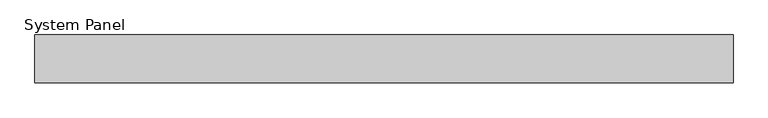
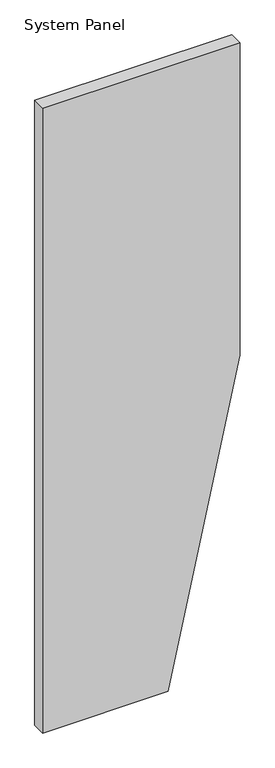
"""IFC4 building model written with IfcOpenShell, lengths in millimetres: plate geometry, System Panel : MetecnoPanel_75mm_Plain_Surfmist."""

from ifc_helpers import new_model, si_unit, frame, origin, place, context, project, spatial, polyline, outline, extrude, source, transform, mapped, element, save


def system_panel_1549973f(model_context):
    return source(origin(), model_context, "Body", "SweptSolid", [
        extrude(outline(polyline([(0.0, -550.0), (0.0, 150.0), (1839.9852118, 550.0), (3679.9704237, 550.0), (3679.9704237, -550.0), (0.0, -550.0)])), frame((0.0, -75.0, 0.0), z_axis=(0.0, 1.0, 0.0), x_axis=(0.0, 0.0, 1.0)), (0.0, 0.0, 1.0), 75.0),
    ])


if __name__ == "__main__":
    model = new_model("IFC4")
    model_context = context("Model", 3, world=origin())
    ifc_project = project(units=[si_unit("LENGTHUNIT", "METRE", prefix="MILLI")], contexts=[model_context])
    site = spatial("IfcSite", under=ifc_project)
    building = spatial("IfcBuilding", under=site)
    placement = place(None, origin())
    system_panel_shape = system_panel_1549973f(model_context)
    element("IfcPlate", 1, ObjectType="System Panel : MetecnoPanel_75mm_Plain_Surfmist", at=placement, inside=building, context=model_context, shape_type="MappedRepresentation", body=[
        mapped(system_panel_shape, transform((0.0, 0.0, 0.0), x_axis=(1.0, 0.0, 0.0), y_axis=(0.0, 1.0, 0.0), z_axis=(0.0, 0.0, 1.0))),
    ])
    save(model, "model.ifc")
